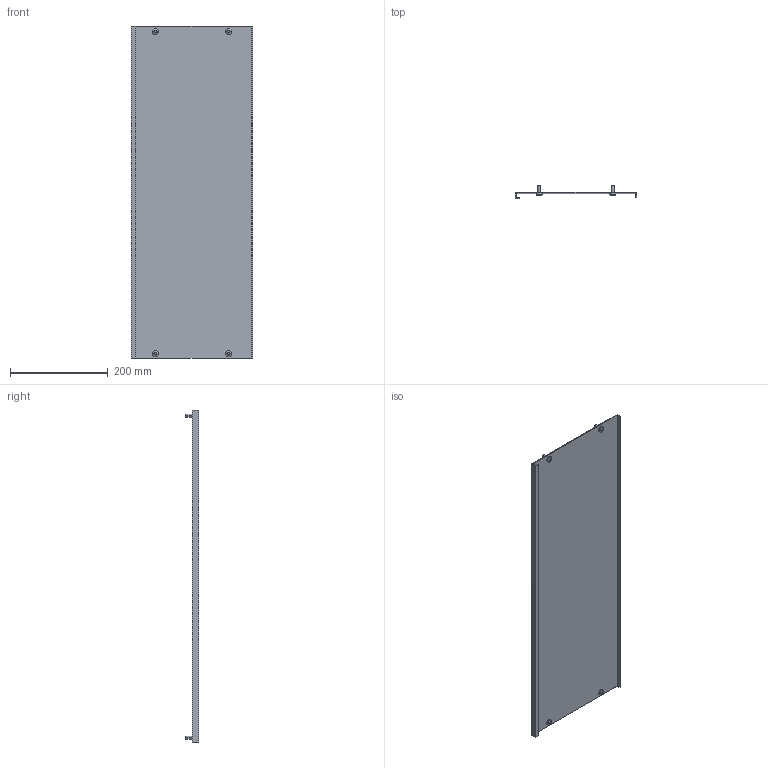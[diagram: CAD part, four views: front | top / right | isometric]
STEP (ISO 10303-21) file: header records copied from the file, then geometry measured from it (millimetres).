
FILE_DESCRIPTION (( 'STEP AP214' ), '1' );
FILE_NAME ('FO-00-PVS-025-080 Ïëàñòðîí ãëóõîé âíóòðåííèé 250õ800.STEP', '2025-09-30T07:49:14', ( '' ), ( '' ), 'SwSTEP 2.0', 'SolidWorks 2023', '' );
FILE_SCHEMA (( 'AUTOMOTIVE_DESIGN' ));
Length unit declared in the file: millimetre
Products named in the file (3): Винт M6x16 25-60 IEK; FO-00-PVS-025-080 Пластрон глухой внутренний 250х800
Assembly tree (3 placements, depth 2):
  FO-00-PVS-025-080 Пластрон глухой внутренний 250х800
    FO-00-PVS-025-080 Пластрон глухой внутренний 250х800
    Винт M6x16 25-60 IEK  x2
Bounding box: 248 x 27 x 679 mm (x, y, z)
Volume: 281913.5 mm3; surface area: 377333.5 mm2
Topology: 5 solids, 5 shells, 150 faces, 392 edges, 256 vertices
Faces by surface type: cylinder 88, plane 42, cone 12, bspline 8
Entity records: 3233 total; most frequent: CARTESIAN_POINT 724, ORIENTED_EDGE 512, DIRECTION 500, EDGE_CURVE 256, AXIS2_PLACEMENT_3D 180, VERTEX_POINT 168, LINE 140, VECTOR 140
